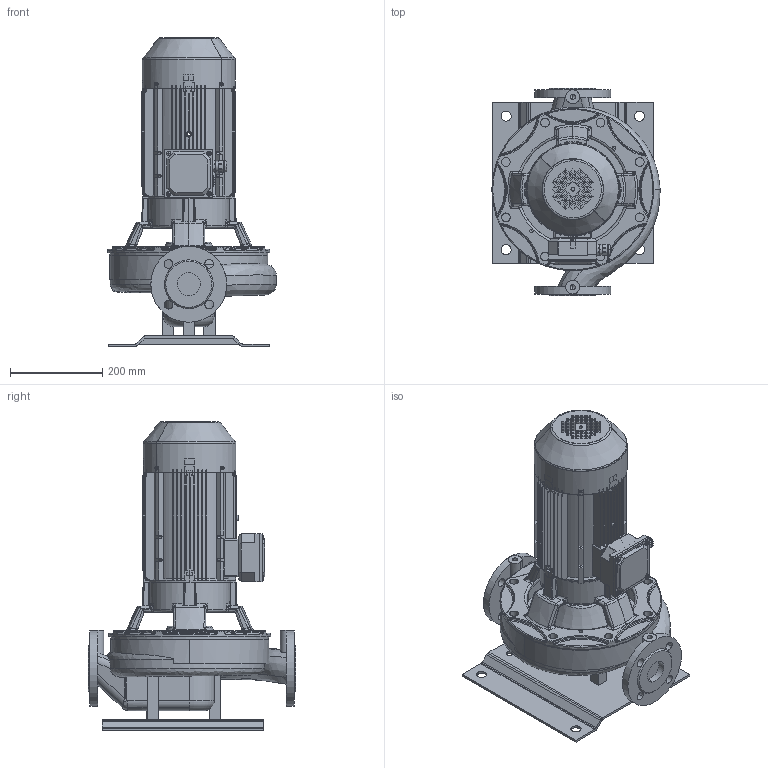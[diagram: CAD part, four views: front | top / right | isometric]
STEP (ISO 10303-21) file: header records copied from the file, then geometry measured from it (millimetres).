
FILE_DESCRIPTION(('STEP AP214'),'1');
FILE_NAME('export.stp','2018-05-29T06:48:03',(' '),(' '),'Spatial InterOp 3D',' ',' ');
FILE_SCHEMA(('AUTOMOTIVE_DESIGN { 1 0 10303 214 1 1 1 1 }'));
Length unit declared in the file: millimetre
Products named in the file (24): W_L50S4300_KP100; V_TLL50S80S; V_PPL50S; P100496; P100495; P100342; 160012; 160010; V_MKP100_2F29; 160141; 160137; 160138; 160139; 160140; Koura_Ale_M5; Plug_Blind_M20; Sealing_Plug_M20; DIN_7985-M5X8; DIN_7985-M5X12; 480041; 480040___; 480043; 480042___; 160136
Assembly tree (27 placements, depth 4):
  W_L50S4300_KP100
    V_TLL50S80S
    V_PPL50S
    P100496
      P100495  x2
      P100342
    V_MKP100_2F29
      160012
        160010
      160141
        160137
        160138
        160139
        160140
        Koura_Ale_M5
        Plug_Blind_M20
        Sealing_Plug_M20
        DIN_7985-M5X8
        DIN_7985-M5X12  x4
      480041
        480040___
      480043
        480042___
      160136
Bounding box: 366 x 450 x 671 mm (x, y, z)
Volume: 12443389.2 mm3; surface area: 2303550.4 mm2
Topology: 21 solids, 21 shells, 2580 faces, 6813 edges, 4276 vertices
Faces by surface type: plane 1050, cylinder 756, bspline 314, torus 258, cone 175, sphere 27
Entity records: 100674 total; most frequent: CARTESIAN_POINT 37001, ORIENTED_EDGE 13194, DIRECTION 12103, EDGE_CURVE 6597, AXIS2_PLACEMENT_3D 4580, VERTEX_POINT 4172, LINE 2943, VECTOR 2943
